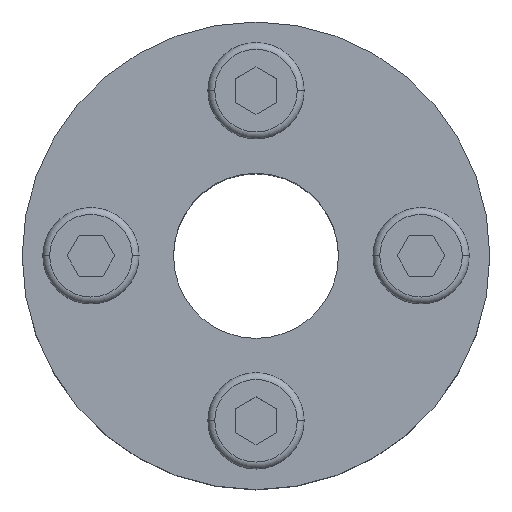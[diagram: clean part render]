
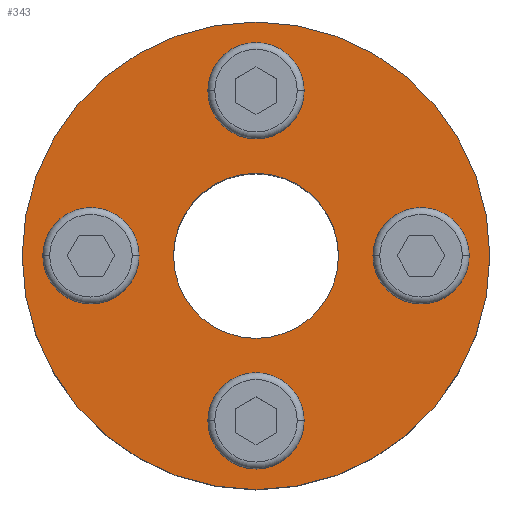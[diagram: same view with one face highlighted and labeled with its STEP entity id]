
A CAD part, top view. The second image highlights one B-rep face of the part: STEP entity #343.
In plain terms, the highlighted planar face has unit normal (0, 0, 1).
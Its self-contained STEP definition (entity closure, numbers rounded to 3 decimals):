
#5 = AXIS2_PLACEMENT_3D ( 'NONE', #303, #484, #476 ) ;
#7 = CIRCLE ( 'NONE', #592, 3.5 ) ;
#14 = VERTEX_POINT ( 'NONE', #849 ) ;
#17 = DIRECTION ( 'NONE',  ( 0., 0., 1. ) ) ;
#26 = CARTESIAN_POINT ( 'NONE',  ( 0., 0., 0. ) ) ;
#39 = CIRCLE ( 'NONE', #1681, 3.5 ) ;
#55 = DIRECTION ( 'NONE',  ( 0., 0., 1. ) ) ;
#91 = CARTESIAN_POINT ( 'NONE',  ( 3.5, -12., 0. ) ) ;
#92 = ORIENTED_EDGE ( 'NONE', *, *, #1396, .F. ) ;
#110 = VERTEX_POINT ( 'NONE', #220 ) ;
#155 = EDGE_LOOP ( 'NONE', ( #261, #181 ) ) ;
#169 = CARTESIAN_POINT ( 'NONE',  ( 12., 0., 0. ) ) ;
#181 = ORIENTED_EDGE ( 'NONE', *, *, #1192, .T. ) ;
#182 = EDGE_CURVE ( 'NONE', #269, #14, #380, .T. ) ;
#192 = VERTEX_POINT ( 'NONE', #91 ) ;
#208 = ORIENTED_EDGE ( 'NONE', *, *, #1482, .F. ) ;
#216 = CARTESIAN_POINT ( 'NONE',  ( 15.5, 0., 0. ) ) ;
#220 = CARTESIAN_POINT ( 'NONE',  ( -3.5, -12., 0. ) ) ;
#226 = DIRECTION ( 'NONE',  ( 0., 0., 1. ) ) ;
#241 = ORIENTED_EDGE ( 'NONE', *, *, #1425, .F. ) ;
#260 = CARTESIAN_POINT ( 'NONE',  ( 8.5, 0., 0. ) ) ;
#261 = ORIENTED_EDGE ( 'NONE', *, *, #557, .T. ) ;
#269 = VERTEX_POINT ( 'NONE', #1352 ) ;
#293 = EDGE_LOOP ( 'NONE', ( #208, #1382 ) ) ;
#303 = CARTESIAN_POINT ( 'NONE',  ( 0., 12., 0. ) ) ;
#326 = EDGE_LOOP ( 'NONE', ( #447, #1534 ) ) ;
#343 = ADVANCED_FACE ( 'NONE', ( #1289, #768, #850, #1435, #828, #894 ), #1119, .F. ) ;
#351 = VERTEX_POINT ( 'NONE', #593 ) ;
#367 = AXIS2_PLACEMENT_3D ( 'NONE', #1081, #566, #1478 ) ;
#380 = CIRCLE ( 'NONE', #819, 6. ) ;
#397 = DIRECTION ( 'NONE',  ( 0., 0., 1. ) ) ;
#398 = EDGE_LOOP ( 'NONE', ( #1059, #1578 ) ) ;
#402 = DIRECTION ( 'NONE',  ( -1., 0., 0. ) ) ;
#406 = CARTESIAN_POINT ( 'NONE',  ( -17., 0., 0. ) ) ;
#438 = CIRCLE ( 'NONE', #1465, 6. ) ;
#445 = DIRECTION ( 'NONE',  ( 1., 0., 0. ) ) ;
#447 = ORIENTED_EDGE ( 'NONE', *, *, #1360, .F. ) ;
#465 = CARTESIAN_POINT ( 'NONE',  ( 0., 12., 0. ) ) ;
#476 = DIRECTION ( 'NONE',  ( -1., 0., 0. ) ) ;
#484 = DIRECTION ( 'NONE',  ( 0., 0., 1. ) ) ;
#505 = EDGE_CURVE ( 'NONE', #351, #1048, #1567, .T. ) ;
#522 = DIRECTION ( 'NONE',  ( 1., 0., 0. ) ) ;
#550 = EDGE_CURVE ( 'NONE', #1159, #1084, #1398, .T. ) ;
#552 = DIRECTION ( 'NONE',  ( 0., 0., 1. ) ) ;
#557 = EDGE_CURVE ( 'NONE', #739, #852, #1445, .T. ) ;
#559 = AXIS2_PLACEMENT_3D ( 'NONE', #26, #17, #522 ) ;
#560 = ORIENTED_EDGE ( 'NONE', *, *, #182, .F. ) ;
#565 = CIRCLE ( 'NONE', #711, 3.5 ) ;
#566 = DIRECTION ( 'NONE',  ( 0., 0., 1. ) ) ;
#572 = CARTESIAN_POINT ( 'NONE',  ( 0., 0., 0. ) ) ;
#592 = AXIS2_PLACEMENT_3D ( 'NONE', #465, #862, #1618 ) ;
#593 = CARTESIAN_POINT ( 'NONE',  ( 3.5, 12., 0. ) ) ;
#612 = DIRECTION ( 'NONE',  ( 0., 0., -1. ) ) ;
#644 = AXIS2_PLACEMENT_3D ( 'NONE', #1483, #1385, #1516 ) ;
#660 = CARTESIAN_POINT ( 'NONE',  ( 17., 0., 0. ) ) ;
#678 = CARTESIAN_POINT ( 'NONE',  ( 0., 0., 0. ) ) ;
#693 = CIRCLE ( 'NONE', #1619, 3.5 ) ;
#703 = DIRECTION ( 'NONE',  ( 0., 0., 1. ) ) ;
#711 = AXIS2_PLACEMENT_3D ( 'NONE', #169, #55, #1589 ) ;
#733 = CARTESIAN_POINT ( 'NONE',  ( 0., 0., 0. ) ) ;
#735 = AXIS2_PLACEMENT_3D ( 'NONE', #1592, #552, #822 ) ;
#739 = VERTEX_POINT ( 'NONE', #660 ) ;
#750 = CARTESIAN_POINT ( 'NONE',  ( -3.5, 12., 0. ) ) ;
#756 = CARTESIAN_POINT ( 'NONE',  ( -8.5, 0., 0. ) ) ;
#768 = FACE_BOUND ( 'NONE', #1315, .T. ) ;
#785 = AXIS2_PLACEMENT_3D ( 'NONE', #1388, #612, #1250 ) ;
#811 = VERTEX_POINT ( 'NONE', #260 ) ;
#819 = AXIS2_PLACEMENT_3D ( 'NONE', #733, #1087, #445 ) ;
#822 = DIRECTION ( 'NONE',  ( -1., 0., 0. ) ) ;
#828 = FACE_BOUND ( 'NONE', #1440, .T. ) ;
#849 = CARTESIAN_POINT ( 'NONE',  ( 6., 0., 0. ) ) ;
#850 = FACE_BOUND ( 'NONE', #326, .T. ) ;
#852 = VERTEX_POINT ( 'NONE', #406 ) ;
#859 = EDGE_CURVE ( 'NONE', #192, #110, #39, .T. ) ;
#861 = CIRCLE ( 'NONE', #735, 3.5 ) ;
#862 = DIRECTION ( 'NONE',  ( 0., 0., 1. ) ) ;
#894 = FACE_OUTER_BOUND ( 'NONE', #155, .T. ) ;
#955 = DIRECTION ( 'NONE',  ( 1., 0., 0. ) ) ;
#1048 = VERTEX_POINT ( 'NONE', #750 ) ;
#1059 = ORIENTED_EDGE ( 'NONE', *, *, #1210, .F. ) ;
#1081 = CARTESIAN_POINT ( 'NONE',  ( 0., -12., 0. ) ) ;
#1084 = VERTEX_POINT ( 'NONE', #1407 ) ;
#1087 = DIRECTION ( 'NONE',  ( 0., 0., 1. ) ) ;
#1119 = PLANE ( 'NONE',  #785 ) ;
#1150 = CARTESIAN_POINT ( 'NONE',  ( 0., -12., 0. ) ) ;
#1154 = CIRCLE ( 'NONE', #559, 17. ) ;
#1159 = VERTEX_POINT ( 'NONE', #756 ) ;
#1177 = CARTESIAN_POINT ( 'NONE',  ( -12., 0., 0. ) ) ;
#1192 = EDGE_CURVE ( 'NONE', #852, #739, #1154, .T. ) ;
#1210 = EDGE_CURVE ( 'NONE', #1084, #1159, #693, .T. ) ;
#1250 = DIRECTION ( 'NONE',  ( -1., 0., 0. ) ) ;
#1289 = FACE_BOUND ( 'NONE', #293, .T. ) ;
#1315 = EDGE_LOOP ( 'NONE', ( #92, #241 ) ) ;
#1321 = EDGE_CURVE ( 'NONE', #14, #269, #438, .T. ) ;
#1346 = DIRECTION ( 'NONE',  ( 0., 0., 1. ) ) ;
#1352 = CARTESIAN_POINT ( 'NONE',  ( -6., 0., 0. ) ) ;
#1360 = EDGE_CURVE ( 'NONE', #110, #192, #1649, .T. ) ;
#1382 = ORIENTED_EDGE ( 'NONE', *, *, #505, .F. ) ;
#1385 = DIRECTION ( 'NONE',  ( 0., 0., 1. ) ) ;
#1388 = CARTESIAN_POINT ( 'NONE',  ( -6., 0., 0. ) ) ;
#1396 = EDGE_CURVE ( 'NONE', #811, #1660, #565, .T. ) ;
#1398 = CIRCLE ( 'NONE', #644, 3.5 ) ;
#1403 = DIRECTION ( 'NONE',  ( -1., 0., 0. ) ) ;
#1407 = CARTESIAN_POINT ( 'NONE',  ( -15.5, 0., 0. ) ) ;
#1425 = EDGE_CURVE ( 'NONE', #1660, #811, #861, .T. ) ;
#1435 = FACE_BOUND ( 'NONE', #398, .T. ) ;
#1440 = EDGE_LOOP ( 'NONE', ( #1539, #560 ) ) ;
#1445 = CIRCLE ( 'NONE', #1568, 17. ) ;
#1465 = AXIS2_PLACEMENT_3D ( 'NONE', #678, #1346, #955 ) ;
#1478 = DIRECTION ( 'NONE',  ( -1., 0., 0. ) ) ;
#1482 = EDGE_CURVE ( 'NONE', #1048, #351, #7, .T. ) ;
#1483 = CARTESIAN_POINT ( 'NONE',  ( -12., 0., 0. ) ) ;
#1516 = DIRECTION ( 'NONE',  ( -1., 0., 0. ) ) ;
#1534 = ORIENTED_EDGE ( 'NONE', *, *, #859, .F. ) ;
#1539 = ORIENTED_EDGE ( 'NONE', *, *, #1321, .F. ) ;
#1567 = CIRCLE ( 'NONE', #5, 3.5 ) ;
#1568 = AXIS2_PLACEMENT_3D ( 'NONE', #572, #703, #1617 ) ;
#1578 = ORIENTED_EDGE ( 'NONE', *, *, #550, .F. ) ;
#1589 = DIRECTION ( 'NONE',  ( -1., 0., 0. ) ) ;
#1592 = CARTESIAN_POINT ( 'NONE',  ( 12., 0., 0. ) ) ;
#1617 = DIRECTION ( 'NONE',  ( 1., 0., 0. ) ) ;
#1618 = DIRECTION ( 'NONE',  ( -1., 0., 0. ) ) ;
#1619 = AXIS2_PLACEMENT_3D ( 'NONE', #1177, #397, #402 ) ;
#1649 = CIRCLE ( 'NONE', #367, 3.5 ) ;
#1660 = VERTEX_POINT ( 'NONE', #216 ) ;
#1681 = AXIS2_PLACEMENT_3D ( 'NONE', #1150, #226, #1403 ) ;
